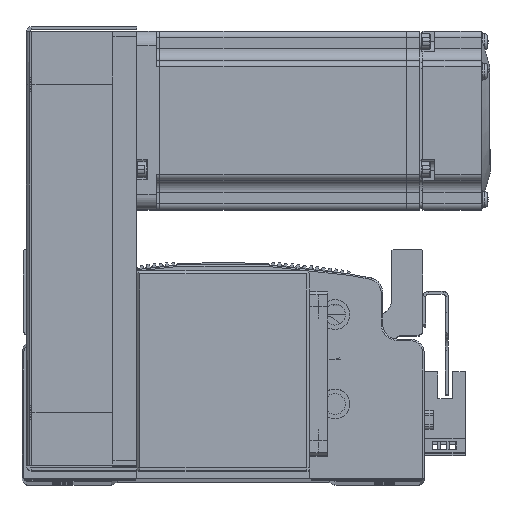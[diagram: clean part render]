
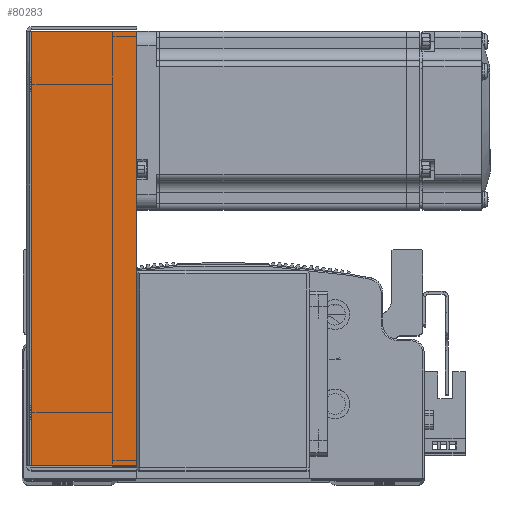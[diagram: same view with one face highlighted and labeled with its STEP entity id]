
A CAD part, top view. The second image highlights one B-rep face of the part: STEP entity #80283.
In plain terms, the highlighted planar face has unit normal (0, 0, 1).
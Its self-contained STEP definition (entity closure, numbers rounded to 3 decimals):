
#21347 = ORIENTED_EDGE ( 'NONE', *, *, #49680, .T. ) ;
#21383 = ORIENTED_EDGE ( 'NONE', *, *, #49594, .F. ) ;
#21384 = ORIENTED_EDGE ( 'NONE', *, *, #49665, .T. ) ;
#21387 = ORIENTED_EDGE ( 'NONE', *, *, #49644, .F. ) ;
#31672 = CARTESIAN_POINT ( 'NONE',  ( 72.793, 0.737, 34.5 ) ) ;
#31750 = CARTESIAN_POINT ( 'NONE',  ( -72.793, 0.737, 34.5 ) ) ;
#31837 = CARTESIAN_POINT ( 'NONE',  ( 72.793, 36., 34.5 ) ) ;
#31891 = CARTESIAN_POINT ( 'NONE',  ( -72.793, 36., 34.5 ) ) ;
#34380 = DIRECTION ( 'NONE',  ( 0., 0., -1. ) ) ;
#34389 = DIRECTION ( 'NONE',  ( -1., 0., 0. ) ) ;
#34445 = PLANE ( 'NONE',  #43565 ) ;
#34457 = CARTESIAN_POINT ( 'NONE',  ( 0., 0., 34.5 ) ) ;
#43565 = AXIS2_PLACEMENT_3D ( 'NONE', #34457, #34380, #34389 ) ;
#49594 = EDGE_CURVE ( 'NONE', #76357, #76457, #82751, .T. ) ;
#49644 = EDGE_CURVE ( 'NONE', #76457, #76548, #82777, .T. ) ;
#49665 = EDGE_CURVE ( 'NONE', #76357, #76515, #82868, .T. ) ;
#49680 = EDGE_CURVE ( 'NONE', #76515, #76548, #82842, .T. ) ;
#50515 = FACE_OUTER_BOUND ( 'NONE', #73288, .T. ) ;
#73288 = EDGE_LOOP ( 'NONE', ( #21383, #21384, #21347, #21387 ) ) ;
#76357 = VERTEX_POINT ( 'NONE', #31672 ) ;
#76457 = VERTEX_POINT ( 'NONE', #31750 ) ;
#76515 = VERTEX_POINT ( 'NONE', #31837 ) ;
#76548 = VERTEX_POINT ( 'NONE', #31891 ) ;
#77079 = DIRECTION ( 'NONE',  ( -1., 0., 0. ) ) ;
#77111 = CARTESIAN_POINT ( 'NONE',  ( -74.5, 0.737, 34.5 ) ) ;
#77284 = DIRECTION ( 'NONE',  ( 0., 1., 0. ) ) ;
#77286 = CARTESIAN_POINT ( 'NONE',  ( -72.793, 0., 34.5 ) ) ;
#77322 = CARTESIAN_POINT ( 'NONE',  ( 72.793, 0., 34.5 ) ) ;
#77327 = DIRECTION ( 'NONE',  ( 0., 1., 0. ) ) ;
#77349 = DIRECTION ( 'NONE',  ( -1., 0., 0. ) ) ;
#77353 = CARTESIAN_POINT ( 'NONE',  ( 0., 36., 34.5 ) ) ;
#80283 = ADVANCED_FACE ( 'NONE', ( #50515 ), #34445, .F. ) ;
#82715 = VECTOR ( 'NONE', #77079, 1000. ) ;
#82751 = LINE ( 'NONE', #77111, #82715 ) ;
#82777 = LINE ( 'NONE', #77286, #82786 ) ;
#82786 = VECTOR ( 'NONE', #77284, 1000. ) ;
#82842 = LINE ( 'NONE', #77353, #82849 ) ;
#82849 = VECTOR ( 'NONE', #77349, 1000. ) ;
#82868 = LINE ( 'NONE', #77322, #82874 ) ;
#82874 = VECTOR ( 'NONE', #77327, 1000. ) ;
